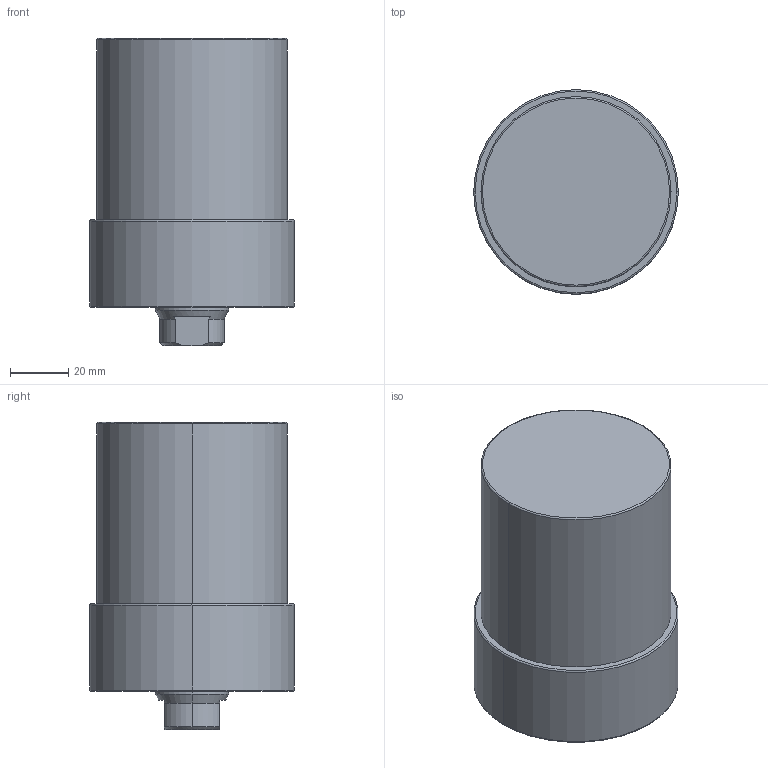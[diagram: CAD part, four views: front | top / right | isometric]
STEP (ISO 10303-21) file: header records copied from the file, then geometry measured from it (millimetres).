
FILE_DESCRIPTION (( 'STEP AP203' ), '1' );
FILE_NAME ('CLLU-065GA-045.STEP', '2020-01-06T08:09:20', ( '' ), ( '' ), 'SwSTEP 2.0', 'SolidWorks 2015', '' );
FILE_SCHEMA (( 'CONFIG_CONTROL_DESIGN' ));
Length unit declared in the file: millimetre
Products named in the file (1): CLLU-065GA-045
Bounding box: 70 x 70 x 105 mm (x, y, z)
Volume: 321725.8 mm3; surface area: 29824.4 mm2
Topology: 1 solids, 1 shells, 64 faces, 145 edges, 82 vertices
Faces by surface type: cone 25, cylinder 23, plane 10, torus 6
Entity records: 1811 total; most frequent: DIRECTION 332, CARTESIAN_POINT 310, ORIENTED_EDGE 270, AXIS2_PLACEMENT_3D 140, EDGE_CURVE 135, VERTEX_POINT 82, CIRCLE 75, EDGE_LOOP 73
